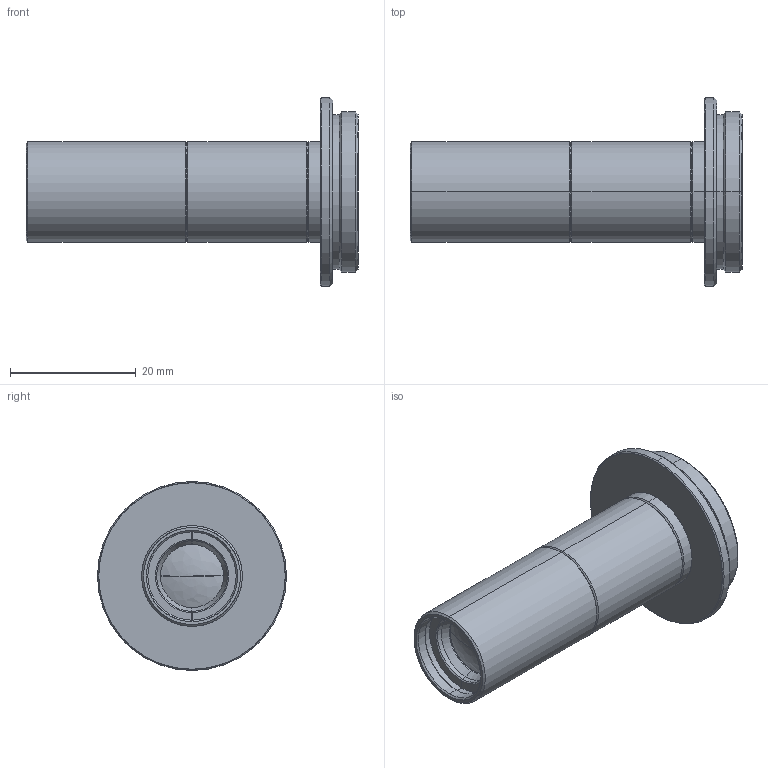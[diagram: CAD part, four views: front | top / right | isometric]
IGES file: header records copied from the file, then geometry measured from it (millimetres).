
Start section: SolidWorks IGES file using analytic representation for surfaces
Bounding box: 52.7 x 30 x 30 mm (x, y, z)
Surface area: 5946.1 mm2 (no closed solid volume)
Topology: 0 solids, 0 shells, 87 faces, 960 edges, 958 vertices
Faces by surface type: revolution 78, bspline 9
